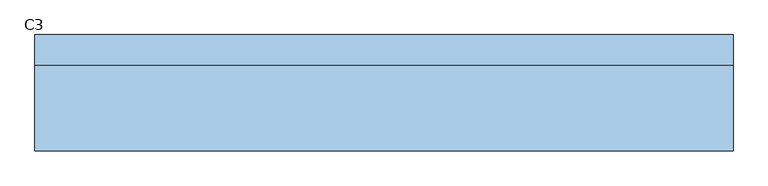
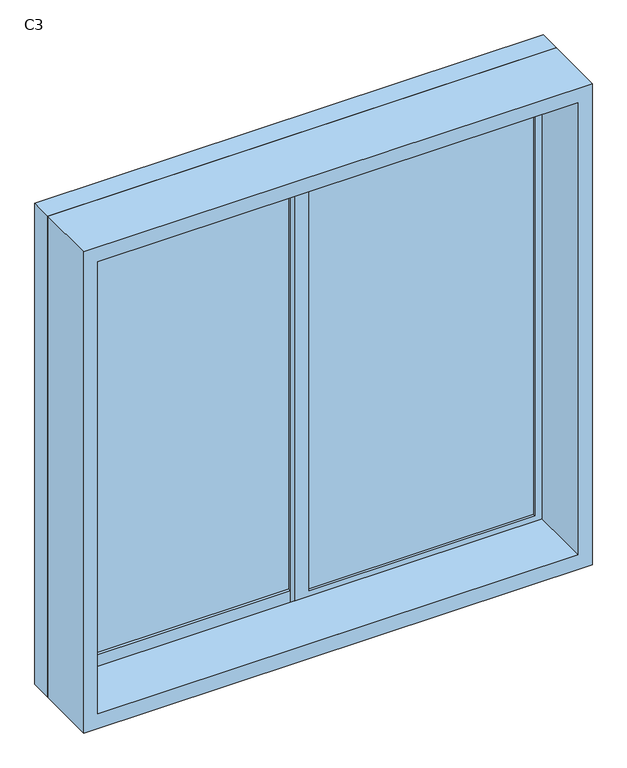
"""IFC4 building model written with IfcOpenShell, lengths in millimetres: window geometry, 推拉窗6 : C3."""

from ifc_helpers import new_model, si_unit, frame, origin, place, context, project, spatial, polyline, outline, extrude, source, transform, mapped, element, save


def c3_90035730(model_context):
    return source(origin(), model_context, "Body", "SweptSolid", [
        extrude(outline(polyline([(-815.475, 53.1265625), (-15.475, 53.1265625), (-15.475, 43.1265625), (-815.475, 43.1265625), (-815.475, 53.1265625)])), frame((0.0, 0.0, 975.0), z_axis=(0.0, 0.0, 1.0), x_axis=(1.0, 0.0, 0.0)), (0.0, 0.0, 1.0), 1650.0),
        extrude(outline(polyline([(34.525, 23.1265625), (834.525, 23.1265625), (834.525, 13.1265625), (34.525, 13.1265625), (34.525, 23.1265625)])), frame((0.0, 0.0, 975.0), z_axis=(0.0, 0.0, 1.0), x_axis=(1.0, 0.0, 0.0)), (0.0, 0.0, 1.0), 1650.0),
        extrude(outline(polyline([(2700.0, -890.475), (900.0, -890.475), (900.0, 909.525), (2700.0, 909.525), (2700.0, -890.475)]), holes=[polyline([(2645.0, 859.525), (955.0, 859.525), (955.0, -840.475), (2645.0, -840.475), (2645.0, 859.525)])]), frame((0.0, -216.8734375, 0.0), z_axis=(0.0, 1.0, 0.0), x_axis=(0.0, 0.0, 1.0)), (0.0, 0.0, 1.0), 220.0),
        extrude(outline(polyline([(925.0, 34.525), (2675.0, 34.525), (2675.0, -865.475), (925.0, -865.475), (925.0, 34.525)]), holes=[polyline([(975.0, -15.475), (975.0, -815.475), (2625.0, -815.475), (2625.0, -15.475), (975.0, -15.475)])]), frame((0.0, 33.1265625, 0.0), z_axis=(0.0, 1.0, 0.0), x_axis=(0.0, 0.0, 1.0)), (0.0, 0.0, 1.0), 30.0),
        extrude(outline(polyline([(2675.0, -15.475), (925.0, -15.475), (925.0, 884.525), (2675.0, 884.525), (2675.0, -15.475)]), holes=[polyline([(2625.0, 34.525), (2625.0, 834.525), (975.0, 834.525), (975.0, 34.525), (2625.0, 34.525)])]), frame((0.0, 3.1265625, 0.0), z_axis=(0.0, 1.0, 0.0), x_axis=(0.0, 0.0, 1.0)), (0.0, 0.0, 1.0), 30.0),
        extrude(outline(polyline([(2700.0, -890.475), (900.0, -890.475), (900.0, 909.525), (2700.0, 909.525), (2700.0, -890.475)]), holes=[polyline([(925.0, -865.475), (2675.0, -865.475), (2675.0, 884.525), (925.0, 884.525), (925.0, -865.475)])]), frame((0.0, 3.1265625, 0.0), z_axis=(0.0, 1.0, 0.0), x_axis=(0.0, 0.0, 1.0)), (0.0, 0.0, 1.0), 80.0),
    ])


if __name__ == "__main__":
    model = new_model("IFC4")
    model_context = context("Model", 3, world=origin())
    ifc_project = project(units=[si_unit("LENGTHUNIT", "METRE", prefix="MILLI")], contexts=[model_context])
    site = spatial("IfcSite", under=ifc_project)
    building = spatial("IfcBuilding", under=site)
    placement = place(None, origin())
    c3_shape = c3_90035730(model_context)
    element("IfcWindow", 1, ObjectType="推拉窗6 : C3", at=placement, inside=building, context=model_context, shape_type="MappedRepresentation", body=[
        mapped(c3_shape, transform((0.0, 0.0, 0.0), x_axis=(1.0, 0.0, 0.0), y_axis=(0.0, 1.0, 0.0), z_axis=(0.0, 0.0, 1.0))),
    ])
    save(model, "model.ifc")
